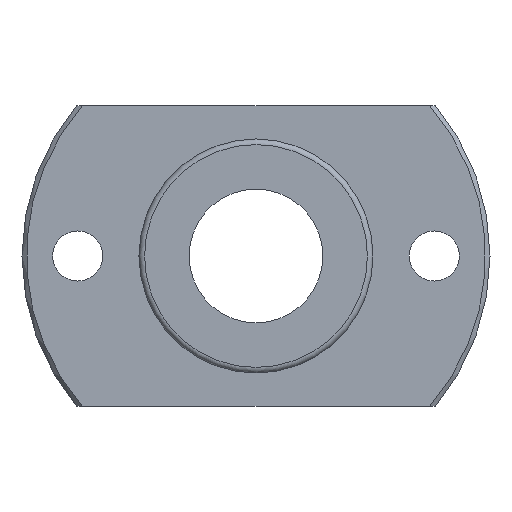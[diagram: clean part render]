
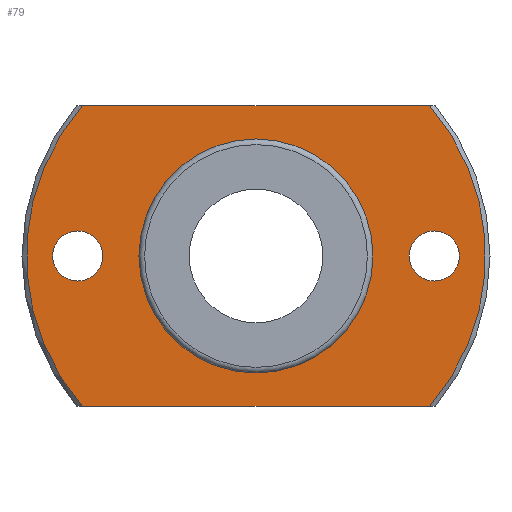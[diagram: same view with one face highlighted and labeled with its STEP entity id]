
A CAD part, left-side view. The second image highlights one B-rep face of the part: STEP entity #79.
In plain terms, the highlighted planar face has unit normal (-1, 0, 0).
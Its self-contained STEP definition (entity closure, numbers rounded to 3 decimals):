
#79=ADVANCED_FACE('',(#115,#116,#117,#118),#119,.T.);
#115=FACE_BOUND('',#192,.T.);
#116=FACE_BOUND('',#193,.T.);
#117=FACE_BOUND('',#194,.T.);
#118=FACE_OUTER_BOUND('',#195,.T.);
#119=PLANE('',#196);
#192=EDGE_LOOP('',(#277));
#193=EDGE_LOOP('',(#278));
#194=EDGE_LOOP('',(#279));
#195=EDGE_LOOP('',(#280,#281,#282,#283));
#196=AXIS2_PLACEMENT_3D('',#284,#285,#286);
#277=ORIENTED_EDGE('',*,*,#430,.F.);
#278=ORIENTED_EDGE('',*,*,#431,.T.);
#279=ORIENTED_EDGE('',*,*,#432,.T.);
#280=ORIENTED_EDGE('',*,*,#433,.T.);
#281=ORIENTED_EDGE('',*,*,#434,.T.);
#282=ORIENTED_EDGE('',*,*,#435,.T.);
#283=ORIENTED_EDGE('',*,*,#436,.T.);
#284=CARTESIAN_POINT('',(-6.0,15.375,0.0));
#285=DIRECTION('',(-1.0,0.0,0.));
#286=DIRECTION('',(0.,0.0,1.0));
#430=EDGE_CURVE('',#478,#478,#479,.T.);
#431=EDGE_CURVE('',#480,#480,#481,.T.);
#432=EDGE_CURVE('',#482,#482,#483,.T.);
#433=EDGE_CURVE('',#484,#485,#486,.T.);
#434=EDGE_CURVE('',#485,#487,#488,.T.);
#435=EDGE_CURVE('',#487,#489,#490,.T.);
#436=EDGE_CURVE('',#489,#484,#491,.T.);
#478=VERTEX_POINT('',#558);
#479=CIRCLE('',#559,10.15);
#480=VERTEX_POINT('',#560);
#481=CIRCLE('',#561,2.25);
#482=VERTEX_POINT('',#562);
#483=CIRCLE('',#563,2.25);
#484=VERTEX_POINT('',#564);
#485=VERTEX_POINT('',#565);
#486=CIRCLE('',#566,20.6);
#487=VERTEX_POINT('',#567);
#488=LINE('',#568,#569);
#489=VERTEX_POINT('',#570);
#490=CIRCLE('',#571,20.6);
#491=LINE('',#572,#573);
#558=CARTESIAN_POINT('',(-6.0,10.15,0.0));
#559=AXIS2_PLACEMENT_3D('',#674,#675,#676);
#560=CARTESIAN_POINT('',(-6.0,16.0,2.25));
#561=AXIS2_PLACEMENT_3D('',#677,#678,#679);
#562=CARTESIAN_POINT('',(-6.0,-16.0,2.25));
#563=AXIS2_PLACEMENT_3D('',#680,#681,#682);
#564=CARTESIAN_POINT('',(-6.0,15.56,13.5));
#565=CARTESIAN_POINT('',(-6.0,15.56,-13.5));
#566=AXIS2_PLACEMENT_3D('',#683,#684,#685);
#567=CARTESIAN_POINT('',(-6.0,-15.56,-13.5));
#568=CARTESIAN_POINT('',(-6.0,15.375,-13.5));
#569=VECTOR('',#686,1.0);
#570=CARTESIAN_POINT('',(-6.0,-15.56,13.5));
#571=AXIS2_PLACEMENT_3D('',#687,#688,#689);
#572=CARTESIAN_POINT('',(-6.0,15.375,13.5));
#573=VECTOR('',#690,1.0);
#674=CARTESIAN_POINT('',(-6.0,0.0,0.0));
#675=DIRECTION('',(-1.0,0.0,0.));
#676=DIRECTION('',(0.0,1.0,0.0));
#677=CARTESIAN_POINT('',(-6.0,16.0,0.));
#678=DIRECTION('',(1.0,0.0,0.));
#679=DIRECTION('',(0.,0.0,-1.0));
#680=CARTESIAN_POINT('',(-6.0,-16.0,0.));
#681=DIRECTION('',(1.0,0.0,0.));
#682=DIRECTION('',(0.,0.0,-1.0));
#683=CARTESIAN_POINT('',(-6.0,0.0,0.0));
#684=DIRECTION('',(-1.0,0.0,0.));
#685=DIRECTION('',(0.0,1.0,0.0));
#686=DIRECTION('',(0.0,-1.0,0.0));
#687=CARTESIAN_POINT('',(-6.0,0.0,0.0));
#688=DIRECTION('',(-1.0,0.0,0.));
#689=DIRECTION('',(0.0,1.0,0.0));
#690=DIRECTION('',(0.0,1.0,0.0));
